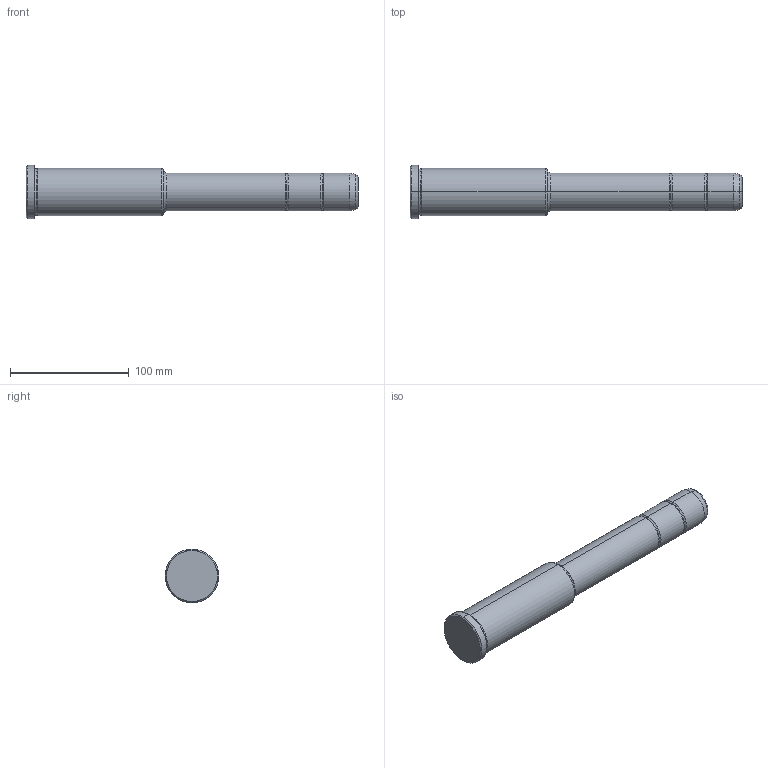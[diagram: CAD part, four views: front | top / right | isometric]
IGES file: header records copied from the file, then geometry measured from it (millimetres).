
Start section: START RECORD GO HERE.
Global section: file name: 351-32X116X280.igs; native system: DASSAULT SYSTEMES CATIA V5 R20 - www.3ds.com; preprocessor: CATIA Version 5 Release 20 ; author: Utente; organization: NB04-ASUS; date: 20210915.133729; units: millimetre
Bounding box: 280 x 45 x 45 mm (x, y, z)
Surface area: 33925.6 mm2 (no closed solid volume)
Topology: 0 solids, 0 shells, 36 faces, 204 edges, 204 vertices
Faces by surface type: revolution 32, plane 4
